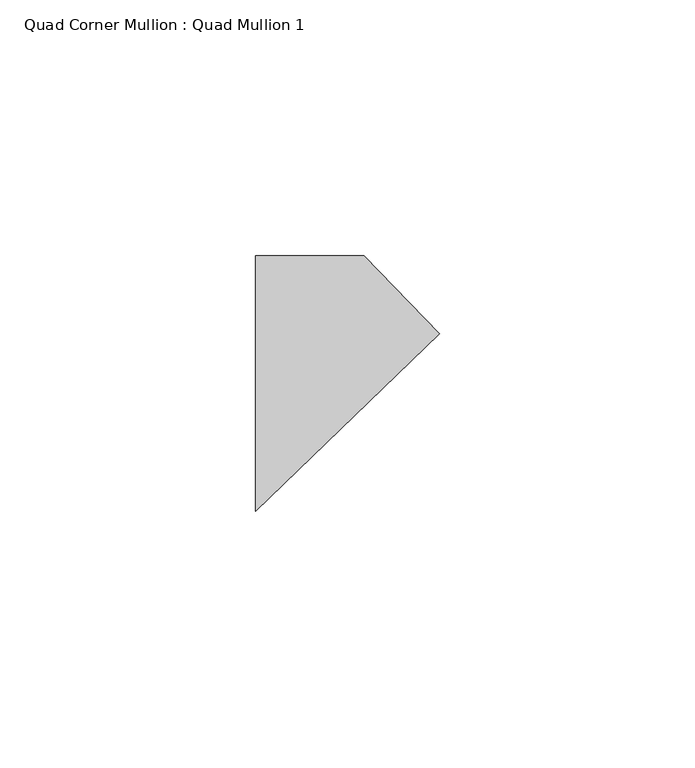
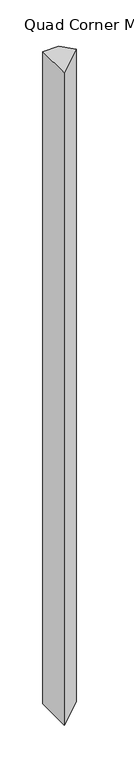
"""IFC4 building model written with IfcOpenShell, lengths in millimetres: member geometry, Quad Corner Mullion : Quad Mullion 1."""

from ifc_helpers import new_model, si_unit, frame, origin, place, context, project, spatial, polyline, outline, extrude, source, transform, mapped, element, save


def quad_corner_mullion_quad_mullion_1_d49462ac(model_context):
    return source(origin(), model_context, "Body", "SweptSolid", [
        extrude(outline(polyline([(25.3551196, 9.7329185), (-10.6118704, -25.0), (-10.6118704, 25.0), (10.6118704, 25.0), (25.3551196, 9.7329185)])), frame((0.0, 0.0, -930.0), z_axis=(0.0, 0.0, 1.0), x_axis=(1.0, 0.0, 0.0)), (0.0, 0.0, 1.0), 930.0),
    ])


if __name__ == "__main__":
    model = new_model("IFC4")
    model_context = context("Model", 3, world=origin())
    ifc_project = project(units=[si_unit("LENGTHUNIT", "METRE", prefix="MILLI")], contexts=[model_context])
    site = spatial("IfcSite", under=ifc_project)
    building = spatial("IfcBuilding", under=site)
    placement = place(None, origin())
    quad_corner_mullion_quad_mullion_1_shape = quad_corner_mullion_quad_mullion_1_d49462ac(model_context)
    element("IfcMember", 1, ObjectType="Quad Corner Mullion : Quad Mullion 1", at=placement, inside=building, context=model_context, shape_type="MappedRepresentation", body=[
        mapped(quad_corner_mullion_quad_mullion_1_shape, transform((0.0, 0.0, 0.0), x_axis=(1.0, 0.0, 0.0), y_axis=(0.0, 1.0, 0.0), z_axis=(0.0, 0.0, 1.0))),
    ])
    save(model, "model.ifc")
